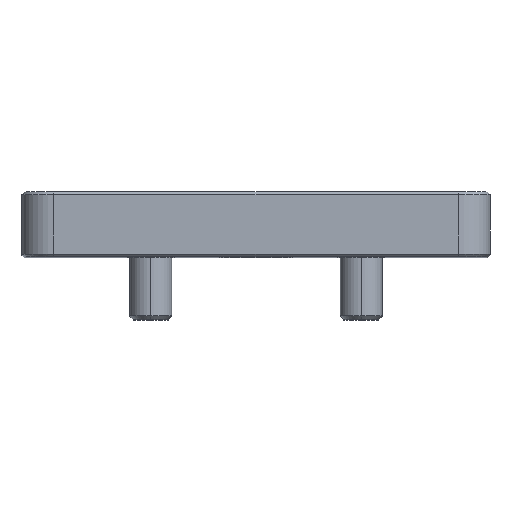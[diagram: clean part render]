
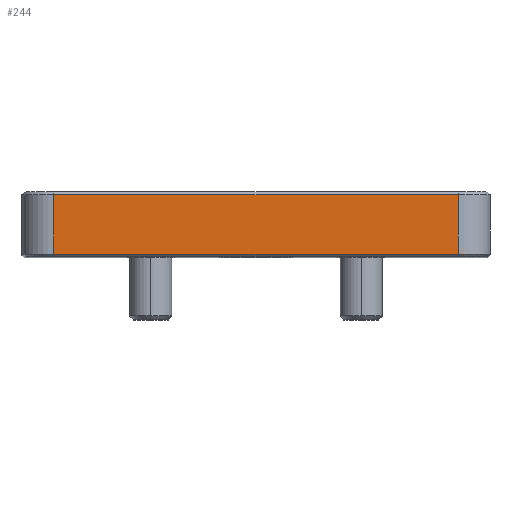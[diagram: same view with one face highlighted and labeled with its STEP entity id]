
A CAD part, top view. The second image highlights one B-rep face of the part: STEP entity #244.
In plain terms, the highlighted planar face has unit normal (0, 0, 1).
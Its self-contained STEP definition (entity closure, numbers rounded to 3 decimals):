
#244 = ADVANCED_FACE ( 'NONE', ( #3824 ), #2003, .F. ) ;
#321 = LINE ( 'NONE', #5688, #6225 ) ;
#462 = VERTEX_POINT ( 'NONE', #5924 ) ;
#804 = DIRECTION ( 'NONE',  ( 0., 0., -1. ) ) ;
#827 = VECTOR ( 'NONE', #5194, 1000. ) ;
#1012 = LINE ( 'NONE', #5745, #6550 ) ;
#1301 = EDGE_CURVE ( 'NONE', #5473, #4846, #3491, .T. ) ;
#2003 = PLANE ( 'NONE',  #5160 ) ;
#2052 = EDGE_CURVE ( 'NONE', #6881, #5473, #1012, .T. ) ;
#2199 = ORIENTED_EDGE ( 'NONE', *, *, #4120, .T. ) ;
#2601 = EDGE_LOOP ( 'NONE', ( #6508, #2199, #4445, #5836 ) ) ;
#2662 = CARTESIAN_POINT ( 'NONE',  ( -64.044, 23.045, 45.154 ) ) ;
#2698 = CARTESIAN_POINT ( 'NONE',  ( -58.044, 22.545, 45.154 ) ) ;
#3291 = CARTESIAN_POINT ( 'NONE',  ( -64.044, 11.226, 45.154 ) ) ;
#3491 = LINE ( 'NONE', #5777, #827 ) ;
#3532 = CARTESIAN_POINT ( 'NONE',  ( -58.044, 11.226, 45.154 ) ) ;
#3824 = FACE_OUTER_BOUND ( 'NONE', #2601, .T. ) ;
#3856 = LINE ( 'NONE', #3291, #6707 ) ;
#4120 = EDGE_CURVE ( 'NONE', #4846, #462, #3856, .T. ) ;
#4445 = ORIENTED_EDGE ( 'NONE', *, *, #6700, .T. ) ;
#4846 = VERTEX_POINT ( 'NONE', #3532 ) ;
#4968 = DIRECTION ( 'NONE',  ( 1., 0., 0. ) ) ;
#5160 = AXIS2_PLACEMENT_3D ( 'NONE', #2662, #804, #7433 ) ;
#5194 = DIRECTION ( 'NONE',  ( 0., -1., 0. ) ) ;
#5231 = CARTESIAN_POINT ( 'NONE',  ( 18.856, 22.545, 45.154 ) ) ;
#5473 = VERTEX_POINT ( 'NONE', #2698 ) ;
#5688 = CARTESIAN_POINT ( 'NONE',  ( 18.856, 23.045, 45.154 ) ) ;
#5745 = CARTESIAN_POINT ( 'NONE',  ( -58.044, 22.545, 45.154 ) ) ;
#5777 = CARTESIAN_POINT ( 'NONE',  ( -58.044, 23.045, 45.154 ) ) ;
#5836 = ORIENTED_EDGE ( 'NONE', *, *, #2052, .T. ) ;
#5924 = CARTESIAN_POINT ( 'NONE',  ( 18.856, 11.226, 45.154 ) ) ;
#6225 = VECTOR ( 'NONE', #6283, 1000. ) ;
#6283 = DIRECTION ( 'NONE',  ( 0., 1., 0. ) ) ;
#6508 = ORIENTED_EDGE ( 'NONE', *, *, #1301, .T. ) ;
#6550 = VECTOR ( 'NONE', #7556, 1000. ) ;
#6700 = EDGE_CURVE ( 'NONE', #462, #6881, #321, .T. ) ;
#6707 = VECTOR ( 'NONE', #4968, 1000. ) ;
#6881 = VERTEX_POINT ( 'NONE', #5231 ) ;
#7433 = DIRECTION ( 'NONE',  ( -1., 0., 0. ) ) ;
#7556 = DIRECTION ( 'NONE',  ( -1., 0., 0. ) ) ;
